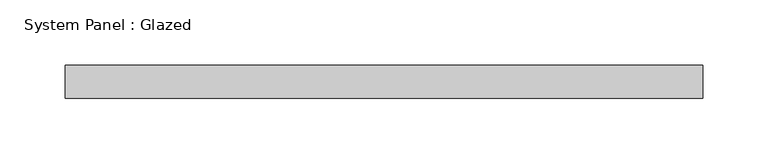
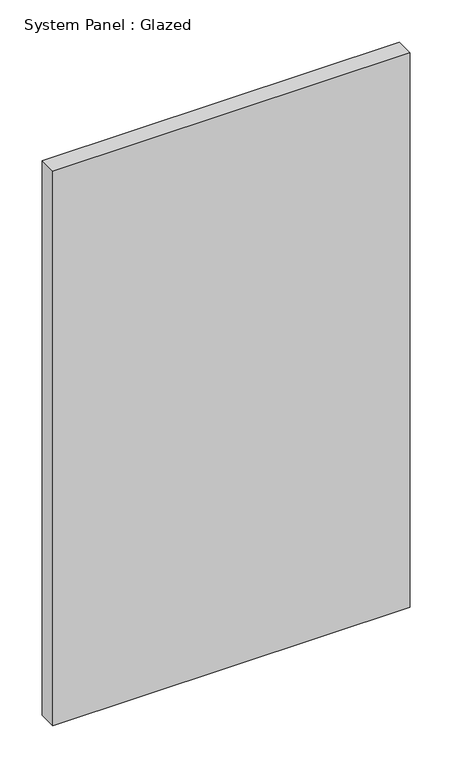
"""IFC4 building model written with IfcOpenShell, lengths in millimetres: plate geometry, System Panel : Glazed."""

from ifc_helpers import new_model, si_unit, origin, origin_with_axes, place, context, project, spatial, polyline, outline, extrude, source, transform, mapped, element, save


def system_panel_glazed_1fe242f3(model_context):
    return source(origin(), model_context, "Body", "SweptSolid", [
        extrude(outline(polyline([(244.475, -44.45), (-244.475, -44.45), (-244.475, -19.05), (244.475, -19.05), (244.475, -44.45)])), origin_with_axes(), (0.0, 0.0, 1.0), 802.4190025),
    ])


if __name__ == "__main__":
    model = new_model("IFC4")
    model_context = context("Model", 3, world=origin())
    ifc_project = project(units=[si_unit("LENGTHUNIT", "METRE", prefix="MILLI")], contexts=[model_context])
    site = spatial("IfcSite", under=ifc_project)
    building = spatial("IfcBuilding", under=site)
    placement = place(None, origin())
    system_panel_glazed_shape = system_panel_glazed_1fe242f3(model_context)
    element("IfcPlate", 1, ObjectType="System Panel : Glazed", at=placement, inside=building, context=model_context, shape_type="MappedRepresentation", body=[
        mapped(system_panel_glazed_shape, transform((0.0, 0.0, 0.0), x_axis=(1.0, 0.0, 0.0), y_axis=(0.0, 1.0, 0.0), z_axis=(0.0, 0.0, 1.0))),
    ])
    save(model, "model.ifc")
